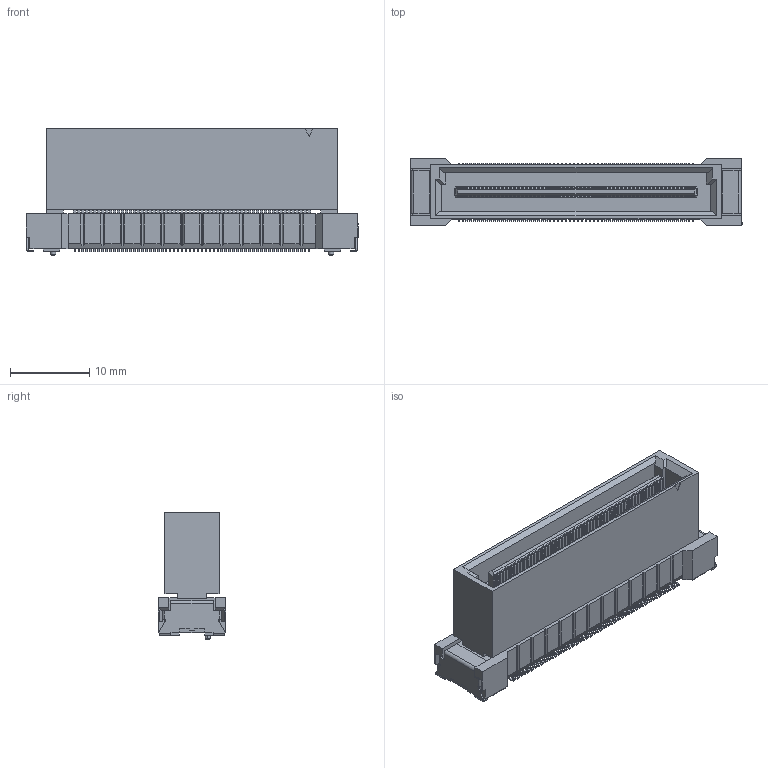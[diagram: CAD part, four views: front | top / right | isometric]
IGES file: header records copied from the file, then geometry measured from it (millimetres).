
Start section: Elysium IGES Interface
Global section: file name: 146HG:\その他\DT関連\【59期以前】\DT_CADﾃﾞｰﾀ\DT_3DCAD\DT0□\FS-10\60-36-0113_WEBサイトアップロード用\ボス有り_DT01-XXXFS-10\P3E104_DT01-120FS-10-T.igs; native system: Creo Elements/Direct Modeling 20.4A  18-Oct-2021; preprocessor: Creo Element/Direct IGES_3D V2.2; author: Unknown; organization: Unknown; date: 20220225.172143; units: millimetre
Bounding box: 41.8 x 8.5 x 15.95 mm (x, y, z)
Volume: 3331.3 mm3; surface area: 3259.7 mm2
Topology: 1 solids, 1 shells, 3359 faces, 9429 edges, 6194 vertices
Faces by surface type: bspline 3359
